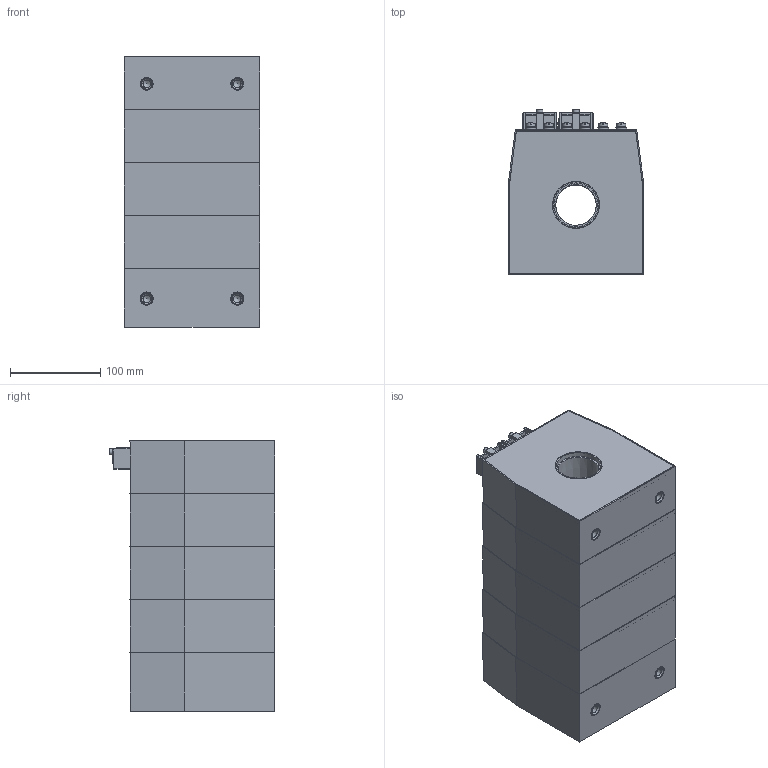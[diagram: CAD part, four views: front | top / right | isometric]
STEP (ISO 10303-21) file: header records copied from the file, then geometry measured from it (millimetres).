
FILE_DESCRIPTION(('STEP AP203'), '1');
FILE_NAME('ÒØÏ-ÍÒÇ-0,66-65À (45 ìì, 5-é ãàáàðèò)', '2025-08-27T09:31:59', ('UNSPECIFIED'), ('UNSPECIFIED'), 'ASCON STEP Converter 1.3', 'ASCON Math Kernel', '');
FILE_SCHEMA(('CONFIG_CONTROL_DESIGN'));
Length unit declared in the file: millimetre
Assembly tree (45 placements, depth 2):
  (unnamed)
    (unnamed)
    (unnamed)  x3
    (unnamed)
    (unnamed)  x5
    (unnamed)  x4
    (unnamed)  x2
    (unnamed)  x6
    (unnamed)  x2
    (unnamed)  x6
    (unnamed)  x6
    (unnamed)  x6
    (unnamed)  x2
    (unnamed)
Bounding box: 150 x 182.93 x 299 mm (x, y, z)
Volume: 926657.4 mm3; surface area: 628068.6 mm2
Topology: 45 solids, 45 shells, 752 faces, 1700 edges, 1070 vertices
Faces by surface type: plane 420, cylinder 209, cone 87, torus 20, bspline 16
Full cylindrical faces by diameter (mm): 3.244 x2, 3.95 x2, 4 x6, 4.5 x2, 4.8 x6, 4.92 x6, 6 x22, 6.4 x6, 7 x2, 7.1 x4, 8 x2, 8.376 x4, 10 x12, 10.1 x6, 12 x12, 14 x8, 17 x4, 45 x1, 48.599 x10, 48.6 x1, 51 x1, 55.05 x1, 58.6 x1, 65.05 x1, 68.6 x1
Entity records: 14368 total; most frequent: CARTESIAN_POINT 2829, DIRECTION 1598, ORIENTED_EDGE 1398, EDGE_CURVE 699, AXIS2_PLACEMENT_3D 580, VERTEX_POINT 493, EDGE_LOOP 474, LINE 438
